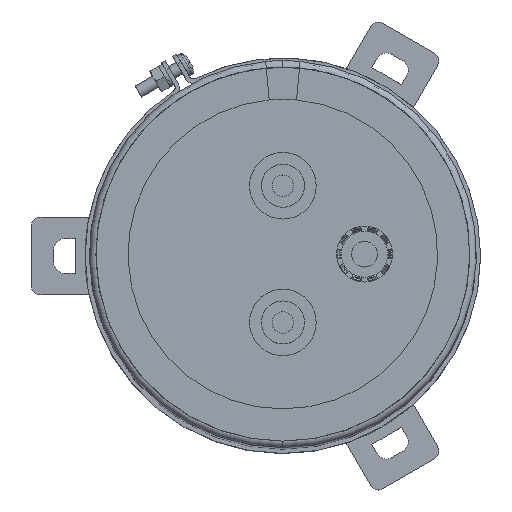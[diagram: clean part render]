
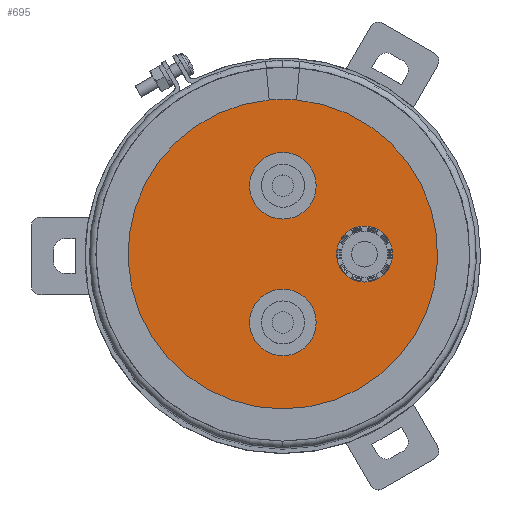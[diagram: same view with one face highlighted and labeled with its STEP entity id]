
A CAD part, top view. The second image highlights one B-rep face of the part: STEP entity #695.
In plain terms, the highlighted planar face has unit normal (0, 0, 1).
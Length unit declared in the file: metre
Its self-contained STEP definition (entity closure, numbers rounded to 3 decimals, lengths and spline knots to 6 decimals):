
#695=ADVANCED_FACE('0:51',(#1182,#1183,#1184,#1185),#1186,.F.);
#1182=FACE_BOUND('',#2286,.T.);
#1183=FACE_BOUND('',#2287,.T.);
#1184=FACE_BOUND('',#2288,.T.);
#1185=FACE_OUTER_BOUND('',#2289,.T.);
#1186=PLANE('',#2290);
#2286=EDGE_LOOP('',(#3171,#3172));
#2287=EDGE_LOOP('',(#3173,#3174));
#2288=EDGE_LOOP('',(#3175,#3176));
#2289=EDGE_LOOP('',(#3177,#3178));
#2290=AXIS2_PLACEMENT_3D('',#3179,#3180,#3181);
#3171=ORIENTED_EDGE('',*,*,#5778,.F.);
#3172=ORIENTED_EDGE('',*,*,#5779,.F.);
#3173=ORIENTED_EDGE('',*,*,#5780,.T.);
#3174=ORIENTED_EDGE('',*,*,#5741,.T.);
#3175=ORIENTED_EDGE('',*,*,#5745,.F.);
#3176=ORIENTED_EDGE('',*,*,#5781,.F.);
#3177=ORIENTED_EDGE('',*,*,#5759,.F.);
#3178=ORIENTED_EDGE('',*,*,#5782,.F.);
#3179=CARTESIAN_POINT('',(0.0,0.,0.2494));
#3180=DIRECTION('',(0.0,0.0,-1.0));
#3181=DIRECTION('',(0.0,-1.0,0.0));
#5741=EDGE_CURVE('0:135',#6795,#6799,#6801,.T.);
#5745=EDGE_CURVE('0:138',#6807,#6803,#6809,.T.);
#5759=EDGE_CURVE('0:141',#6830,#6832,#6833,.T.);
#5778=EDGE_CURVE('0:132',#6866,#6862,#6868,.T.);
#5779=EDGE_CURVE('0:132',#6862,#6866,#6869,.T.);
#5780=EDGE_CURVE('0:135',#6799,#6795,#6870,.T.);
#5781=EDGE_CURVE('0:138',#6803,#6807,#6871,.T.);
#5782=EDGE_CURVE('0:141',#6832,#6830,#6872,.T.);
#6795=VERTEX_POINT('',#8329);
#6799=VERTEX_POINT('',#8334);
#6801=CIRCLE('',#8337,0.00775);
#6803=VERTEX_POINT('',#8339);
#6807=VERTEX_POINT('',#8344);
#6809=CIRCLE('',#8347,0.00775);
#6830=VERTEX_POINT('',#8370);
#6832=VERTEX_POINT('',#8372);
#6833=CIRCLE('',#8373,0.0435);
#6862=VERTEX_POINT('',#8408);
#6866=VERTEX_POINT('',#8413);
#6868=CIRCLE('',#8416,0.0065);
#6869=CIRCLE('',#8417,0.0065);
#6870=CIRCLE('',#8418,0.00775);
#6871=CIRCLE('',#8419,0.00775);
#6872=CIRCLE('',#8420,0.0435);
#8329=CARTESIAN_POINT('',(0.,0.02365,0.2494));
#8334=CARTESIAN_POINT('',(0.,0.00815,0.2494));
#8337=AXIS2_PLACEMENT_3D('',#9939,#9940,#9941);
#8339=CARTESIAN_POINT('',(0.,-0.00815,0.2494));
#8344=CARTESIAN_POINT('',(0.0,-0.02365,0.2494));
#8347=AXIS2_PLACEMENT_3D('',#9947,#9948,#9949);
#8370=CARTESIAN_POINT('',(0.0,0.0435,0.2494));
#8372=CARTESIAN_POINT('',(0.,-0.0435,0.2494));
#8373=AXIS2_PLACEMENT_3D('',#9985,#9986,#9987);
#8408=CARTESIAN_POINT('',(0.019,-0.0065,0.2494));
#8413=CARTESIAN_POINT('',(0.019,0.0065,0.2494));
#8416=AXIS2_PLACEMENT_3D('',#10026,#10027,#10028);
#8417=AXIS2_PLACEMENT_3D('',#10029,#10030,#10031);
#8418=AXIS2_PLACEMENT_3D('',#10032,#10033,#10034);
#8419=AXIS2_PLACEMENT_3D('',#10035,#10036,#10037);
#8420=AXIS2_PLACEMENT_3D('',#10038,#10039,#10040);
#9939=CARTESIAN_POINT('',(0.0,0.0159,0.2494));
#9940=DIRECTION('',(0.0,0.0,-1.0));
#9941=DIRECTION('',(0.,-1.0,0.0));
#9947=CARTESIAN_POINT('',(0.0,-0.0159,0.2494));
#9948=DIRECTION('',(0.0,0.0,1.0));
#9949=DIRECTION('',(0.0,-1.0,0.0));
#9985=CARTESIAN_POINT('',(0.0,0.0,0.2494));
#9986=DIRECTION('',(0.0,0.0,-1.0));
#9987=DIRECTION('',(0.0,1.0,0.0));
#10026=CARTESIAN_POINT('',(0.019,0.,0.2494));
#10027=DIRECTION('',(-0.0,0.0,1.0));
#10028=DIRECTION('',(0.0,-1.0,0.0));
#10029=CARTESIAN_POINT('',(0.019,0.,0.2494));
#10030=DIRECTION('',(-0.0,0.0,1.0));
#10031=DIRECTION('',(0.0,-1.0,0.0));
#10032=CARTESIAN_POINT('',(0.0,0.0159,0.2494));
#10033=DIRECTION('',(0.0,0.0,-1.0));
#10034=DIRECTION('',(0.,-1.0,0.0));
#10035=CARTESIAN_POINT('',(0.0,-0.0159,0.2494));
#10036=DIRECTION('',(0.0,0.0,1.0));
#10037=DIRECTION('',(0.0,-1.0,0.0));
#10038=CARTESIAN_POINT('',(0.0,0.0,0.2494));
#10039=DIRECTION('',(0.0,0.0,-1.0));
#10040=DIRECTION('',(0.0,1.0,0.0));
